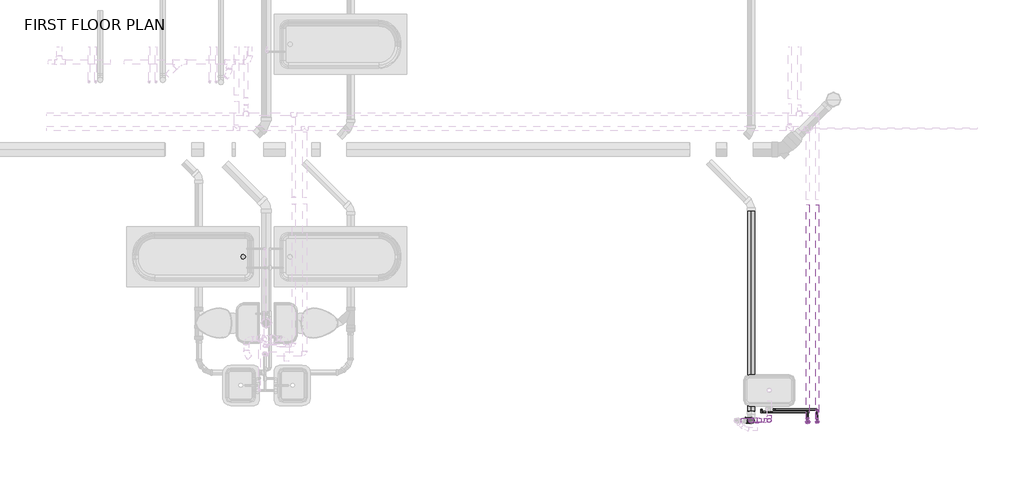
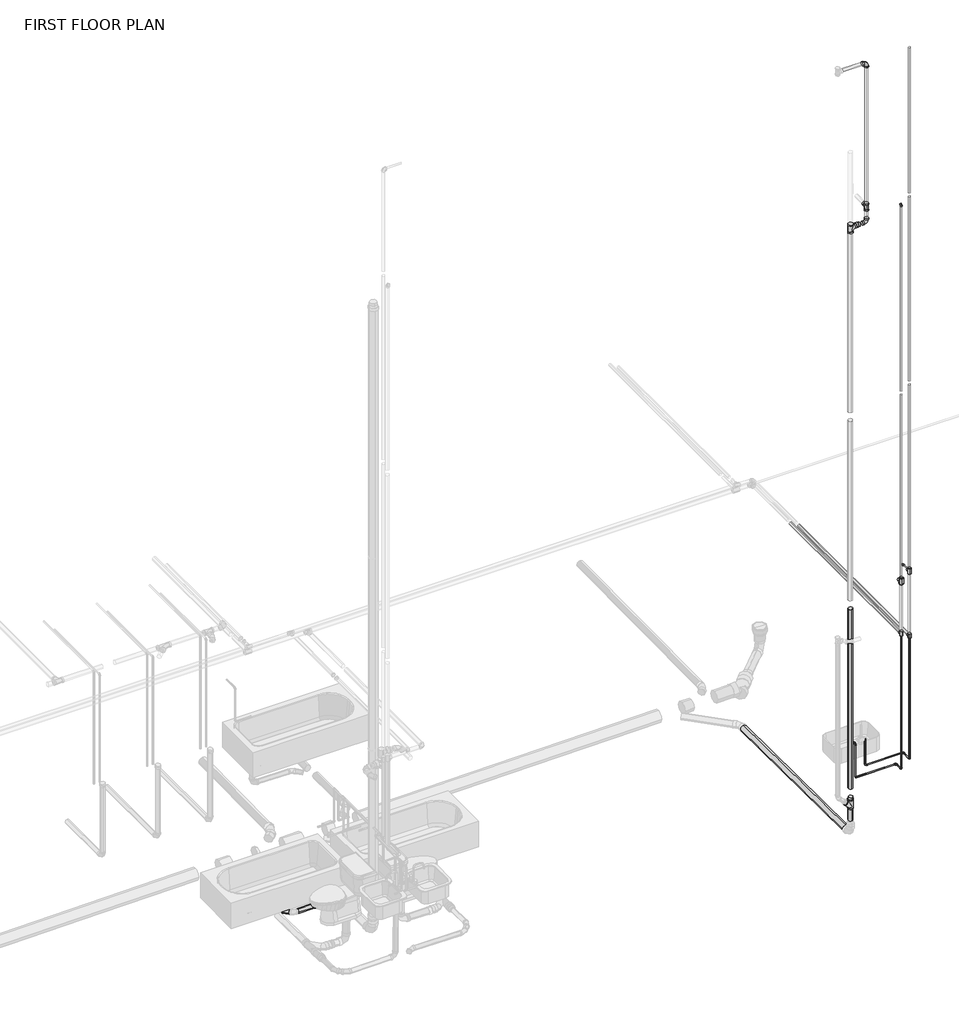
# One storey, part 23 of 29: 31 pipe segments, 29 pipe fittings.
"""IFC4 building model written with IfcOpenShell, lengths in millimetres."""

from ifc_helpers import new_model, si_unit, point, frame, frame_2d, origin, place, context, project, spatial, circle_curve, trimmed, segment, composite_curve, outline, extrude, transform, mapped, element, save
from components import bend_pvc_sch_40_dwv_standard_80f96eb1, bend_pvc_sch_40_dwv_standard_35af41d9, bend_pvc_sch_40_dwv_standard_e287c2f6, ges_wye_45_deg_threaded_mi_class_150_cast_iron_sanitary_c88a242e, pipe_elbow_copper_k_aad62f2d, pipe_elbow_copper_k_4cfe590c, pipe_tee_copper_k_36278b8a, pipe_tee_copper_k_7127fd44, pipe_tee_copper_k_60c871d1, pipe_transition_copper_k_5cd7eb3f, pipe_transition_copper_k_e8f139fb, pipe_transition_copper_k_0ad24bcb, pipe_transition_copper_k_8ba7ae3f, pipe_transition_copper_k_0f2e1631, pipe_transition_copper_k_f9440895, pipe_transition_copper_k_17d9deb3, pipe_transition_copper_k_4b29cc47, pipe_transition_copper_k_2a5e9307, reducer_pvc_sch_40_dwv_standard_b23fa098, tee_sanitary_pvc_sch_40_dwv_standard_63ee02c0, tee_sanitary_pvc_sch_40_dwv_standard_3578d342

model = new_model("IFC4")

# Units and contexts
model_context = context("Model", 3, world=origin())
ifc_project = project(units=[si_unit("LENGTHUNIT", "METRE", prefix="MILLI")], contexts=[model_context])

# Site, building, storey
site = spatial("IfcSite", under=ifc_project)
building = spatial("IfcBuilding", under=site)
storey = spatial("IfcBuildingStorey", under=building, Name="FIRST FLOOR PLAN", Elevation=0.0)

# Pipe fittings
placement = place(None, origin())
bend_pvc_sch_40_dwv_standard_shape = bend_pvc_sch_40_dwv_standard_80f96eb1(model_context)
element("IfcPipeFitting", 1, ObjectType="Bend - PVC - Sch 40 - DWV : Standard", at=placement, inside=storey, context=model_context, shape_type="MappedRepresentation", body=[
    mapped(bend_pvc_sch_40_dwv_standard_shape, transform((23291.1166496, 2089.7012881, 8872.178232), x_axis=(0.0, 0.0, -1.0), y_axis=(1.0, 0.0, 0.0), z_axis=(0.0, -1.0, 0.0))),
])
bend_pvc_sch_40_dwv_standard_2_shape = bend_pvc_sch_40_dwv_standard_35af41d9(model_context)
element("IfcPipeFitting", 2, ObjectType="Bend - PVC - Sch 40 - DWV : Standard", at=placement, inside=storey, context=model_context, shape_type="MappedRepresentation", body=[
    mapped(bend_pvc_sch_40_dwv_standard_2_shape, transform((23291.1209875, 2089.7012881, 11280.7857867), x_axis=(0.0, 0.0, 1.0), y_axis=(1.0, 0.0, 0.0), z_axis=(0.0, 1.0, 0.0))),
])
bend_pvc_sch_40_dwv_standard_3_shape = bend_pvc_sch_40_dwv_standard_e287c2f6(model_context)
element("IfcPipeFitting", 3, ObjectType="Bend - PVC - Sch 40 - DWV : Standard", at=placement, inside=storey, context=model_context, shape_type="MappedRepresentation", body=[
    mapped(bend_pvc_sch_40_dwv_standard_3_shape, transform((16645.9885087, 4158.2539362, -374.9831258), x_axis=(0.0, 0.0, -1.0), y_axis=(-1.0, 0.0, 0.0), z_axis=(0.0, 1.0, 0.0))),
])
ges_wye_45_deg_threaded_mi_class_150_cast_iron_sanitary_shape = ges_wye_45_deg_threaded_mi_class_150_cast_iron_sanitary_c88a242e(model_context)
element("IfcPipeFitting", 4, ObjectType="GES Wye 45 Deg - Threaded - MI - Class 150 : Cast Iron- Sanitary", at=placement, inside=storey, context=model_context, shape_type="MappedRepresentation", body=[
    mapped(ges_wye_45_deg_threaded_mi_class_150_cast_iron_sanitary_shape, transform((23061.4980301, 2089.9069038, 122.1428758), x_axis=(0.0, 0.0, 1.0), y_axis=(-0.9999896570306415, -0.004548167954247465, 0.0), z_axis=(0.004548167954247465, -0.9999896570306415, 0.0))),
])
pipe_elbow_copper_k_shape = pipe_elbow_copper_k_aad62f2d(model_context)
element("IfcPipeFitting", 5, ObjectType="Pipe Elbow : Copper- K", at=placement, inside=storey, context=model_context, shape_type="MappedRepresentation", body=[
    mapped(pipe_elbow_copper_k_shape, transform((23897.1913377, 2227.8137881, 3393.4757324), x_axis=(0.0, 1.0, 0.0), y_axis=(-0.9999999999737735, 0.0, 7.242448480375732e-06), z_axis=(7.242448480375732e-06, 0.0, 0.9999999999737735))),
])
element("IfcPipeFitting", 6, ObjectType="Pipe Elbow : Copper- K", at=placement, inside=storey, context=model_context, shape_type="MappedRepresentation", body=[
    mapped(pipe_elbow_copper_k_shape, transform((23193.8391516, 2195.725865, 436.8601562), x_axis=(-1.0, 0.0, 0.0), y_axis=(0.0, 0.0, 1.0), z_axis=(0.0, 1.0, 0.0))),
])
element("IfcPipeFitting", 7, ObjectType="Pipe Elbow : Copper- K", at=placement, inside=storey, context=model_context, shape_type="MappedRepresentation", body=[
    mapped(pipe_elbow_copper_k_shape, transform((23193.8391516, 2195.725865, 944.8601562), x_axis=(0.0, 0.0, 1.0), y_axis=(0.0, 1.0, 0.0), z_axis=(-1.0, 0.0, 0.0))),
])
element("IfcPipeFitting", 8, ObjectType="Pipe Elbow : Copper- K", at=placement, inside=storey, context=model_context, shape_type="MappedRepresentation", body=[
    mapped(pipe_elbow_copper_k_shape, transform((23778.0391516, 2071.7561808, 8971.2601562), x_axis=(0.0, 0.0, 1.0), y_axis=(0.0, 1.0, 0.0), z_axis=(-1.0, 0.0, 0.0))),
])
element("IfcPipeFitting", 9, ObjectType="Pipe Elbow : Copper- K", at=placement, inside=storey, context=model_context, shape_type="MappedRepresentation", body=[
    mapped(pipe_elbow_copper_k_shape, transform((23897.1913377, 2071.7561808, 548.6757324), x_axis=(0.0, 0.0, -1.0), y_axis=(0.0, 1.0, 0.0), z_axis=(1.0, 0.0, 0.0))),
])
element("IfcPipeFitting", 10, ObjectType="Pipe Elbow : Copper- K", at=placement, inside=storey, context=model_context, shape_type="MappedRepresentation", body=[
    mapped(pipe_elbow_copper_k_shape, transform((23897.1913377, 2227.8137881, 548.6757324), x_axis=(0.0, 1.0, 0.0), y_axis=(-0.9999999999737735, 0.0, 7.242448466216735e-06), z_axis=(7.242448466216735e-06, 0.0, 0.9999999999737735))),
])
element("IfcPipeFitting", 11, ObjectType="Pipe Elbow : Copper- K", at=placement, inside=storey, context=model_context, shape_type="MappedRepresentation", body=[
    mapped(pipe_elbow_copper_k_shape, transform((23778.0391516, 2195.725865, 436.8601562), x_axis=(0.0, 1.0, 0.0), y_axis=(-1.0, 0.0, 0.0), z_axis=(0.0, 0.0, 1.0))),
])
element("IfcPipeFitting", 12, ObjectType="Pipe Elbow : Copper- K", at=placement, inside=storey, context=model_context, shape_type="MappedRepresentation", body=[
    mapped(pipe_elbow_copper_k_shape, transform((23778.0391516, 2071.7561808, 436.8601562), x_axis=(0.0, -1.0, 0.0), y_axis=(0.0, 0.0, 1.0), z_axis=(-1.0, 0.0, 0.0))),
])
pipe_elbow_copper_k_2_shape = pipe_elbow_copper_k_4cfe590c(model_context)
element("IfcPipeFitting", 13, ObjectType="Pipe Elbow : Copper- K", at=placement, inside=storey, context=model_context, shape_type="MappedRepresentation", body=[
    mapped(pipe_elbow_copper_k_2_shape, transform((23351.0913377, 2227.8137881, 548.6796875), x_axis=(0.0, 0.0, -1.0), y_axis=(1.0, 0.0, 0.0), z_axis=(0.0, -1.0, 0.0))),
])
pipe_tee_copper_k_shape = pipe_tee_copper_k_36278b8a(model_context)
element("IfcPipeFitting", 14, ObjectType="Pipe Tee : Copper- K", at=placement, inside=storey, context=model_context, shape_type="MappedRepresentation", body=[
    mapped(pipe_tee_copper_k_shape, transform((23778.0391516, 2071.7561808, 3281.6214111), x_axis=(0.0, 0.0, 1.0), y_axis=(0.0, -1.0, 0.0), z_axis=(1.0, 0.0, 0.0))),
])
pipe_tee_copper_k_2_shape = pipe_tee_copper_k_7127fd44(model_context)
element("IfcPipeFitting", 15, ObjectType="Pipe Tee : Copper- K", at=placement, inside=storey, context=model_context, shape_type="MappedRepresentation", body=[
    mapped(pipe_tee_copper_k_2_shape, transform((23897.1913377, 2071.7561808, 3393.4757324), x_axis=(0.0, 0.0, 1.0), y_axis=(0.0, -1.0, 0.0), z_axis=(1.0, 0.0, 0.0))),
])
pipe_tee_copper_k_3_shape = pipe_tee_copper_k_60c871d1(model_context)
element("IfcPipeFitting", 16, ObjectType="Pipe Tee : Copper- K", at=placement, inside=storey, context=model_context, shape_type="MappedRepresentation", body=[
    mapped(pipe_tee_copper_k_3_shape, transform((23897.1913377, 2071.7561808, 2413.0), x_axis=(0.0, 0.0, -1.0), y_axis=(0.0, -1.0, 0.0), z_axis=(-1.0, 0.0, 0.0))),
])
element("IfcPipeFitting", 17, ObjectType="Pipe Tee : Copper- K", at=placement, inside=storey, context=model_context, shape_type="MappedRepresentation", body=[
    mapped(pipe_tee_copper_k_3_shape, transform((23778.0391516, 2071.7561808, 2490.6882812), x_axis=(0.0, 0.0, -1.0), y_axis=(0.0, -1.0, 0.0), z_axis=(-1.0, 0.0, 0.0))),
])
pipe_transition_copper_k_shape = pipe_transition_copper_k_5cd7eb3f(model_context)
element("IfcPipeFitting", 18, ObjectType="Pipe Transition : Copper- K", at=placement, inside=storey, context=model_context, shape_type="MappedRepresentation", body=[
    mapped(pipe_transition_copper_k_shape, transform((23778.0391516, 2071.7561808, 3324.4839111), x_axis=(0.0, 0.0, 1.0), y_axis=(-1.0, 0.0, 0.0), z_axis=(0.0, -1.0, 0.0))),
])
pipe_transition_copper_k_2_shape = pipe_transition_copper_k_e8f139fb(model_context)
element("IfcPipeFitting", 19, ObjectType="Pipe Transition : Copper- K", at=placement, inside=storey, context=model_context, shape_type="MappedRepresentation", body=[
    mapped(pipe_transition_copper_k_2_shape, transform((23778.0391516, 2114.6186808, 3281.6214111), x_axis=(0.0, 1.0, 0.0), y_axis=(-1.0, 0.0, 0.0), z_axis=(0.0, 0.0, 1.0))),
])
pipe_transition_copper_k_3_shape = pipe_transition_copper_k_0ad24bcb(model_context)
element("IfcPipeFitting", 20, ObjectType="Pipe Transition : Copper- K", at=placement, inside=storey, context=model_context, shape_type="MappedRepresentation", body=[
    mapped(pipe_transition_copper_k_3_shape, transform((23897.1913377, 2108.2686808, 3393.4757324), x_axis=(0.0, 1.0, 0.0), y_axis=(-1.0, 0.0, 0.0), z_axis=(0.0, 0.0, 1.0))),
])
pipe_transition_copper_k_4_shape = pipe_transition_copper_k_8ba7ae3f(model_context)
element("IfcPipeFitting", 21, ObjectType="Pipe Transition : Copper- K", at=placement, inside=storey, context=model_context, shape_type="MappedRepresentation", body=[
    mapped(pipe_transition_copper_k_4_shape, transform((23778.0391516, 2071.7561808, 8953.7976562), x_axis=(0.0, 0.0, -1.0), y_axis=(1.0, 0.0, 0.0), z_axis=(0.0, -1.0, 0.0))),
])
pipe_transition_copper_k_5_shape = pipe_transition_copper_k_0f2e1631(model_context)
element("IfcPipeFitting", 22, ObjectType="Pipe Transition : Copper- K", at=placement, inside=storey, context=model_context, shape_type="MappedRepresentation", body=[
    mapped(pipe_transition_copper_k_5_shape, transform((23897.1913377, 2071.7561808, 3429.9882324), x_axis=(0.0, 0.0, 1.0), y_axis=(-1.0, 0.0, 0.0), z_axis=(0.0, -1.0, 0.0))),
])
pipe_transition_copper_k_6_shape = pipe_transition_copper_k_f9440895(model_context)
element("IfcPipeFitting", 23, ObjectType="Pipe Transition : Copper- K", at=placement, inside=storey, context=model_context, shape_type="MappedRepresentation", body=[
    mapped(pipe_transition_copper_k_6_shape, transform((23897.1913377, 2071.7561808, 3356.9632324), x_axis=(0.0, 0.0, -1.0), y_axis=(-1.0, 0.0, 0.0), z_axis=(0.0, 1.0, 0.0))),
])
pipe_transition_copper_k_7_shape = pipe_transition_copper_k_17d9deb3(model_context)
element("IfcPipeFitting", 24, ObjectType="Pipe Transition : Copper- K", at=placement, inside=storey, context=model_context, shape_type="MappedRepresentation", body=[
    mapped(pipe_transition_copper_k_7_shape, transform((23778.0391516, 2071.7561808, 3238.7589111), x_axis=(0.0, 0.0, -1.0), y_axis=(-1.0, 0.0, 0.0), z_axis=(0.0, 1.0, 0.0))),
])
pipe_transition_copper_k_8_shape = pipe_transition_copper_k_4b29cc47(model_context)
element("IfcPipeFitting", 25, ObjectType="Pipe Transition : Copper- K", at=placement, inside=storey, context=model_context, shape_type="MappedRepresentation", body=[
    mapped(pipe_transition_copper_k_8_shape, transform((23897.1913377, 2071.7561808, 2379.6625), x_axis=(0.0, 0.0, -1.0), y_axis=(1.0, 0.0, 0.0), z_axis=(0.0, -1.0, 0.0))),
])
pipe_transition_copper_k_9_shape = pipe_transition_copper_k_2a5e9307(model_context)
element("IfcPipeFitting", 26, ObjectType="Pipe Transition : Copper- K", at=placement, inside=storey, context=model_context, shape_type="MappedRepresentation", body=[
    mapped(pipe_transition_copper_k_9_shape, transform((23778.0391516, 2071.7561808, 2452.9851562), x_axis=(0.0, 0.0, 1.0), y_axis=(-1.0, 0.0, 0.0), z_axis=(0.0, -1.0, 0.0))),
])
reducer_pvc_sch_40_dwv_standard_shape = reducer_pvc_sch_40_dwv_standard_b23fa098(model_context)
element("IfcPipeFitting", 27, ObjectType="Reducer - PVC - Sch 40 - DWV : Standard", at=placement, inside=storey, context=model_context, shape_type="MappedRepresentation", body=[
    mapped(reducer_pvc_sch_40_dwv_standard_shape, transform((23139.5142111, 2089.7012881, 8870.5990399), x_axis=(0.9999457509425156, 0.0, 0.010416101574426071), y_axis=(0.0, 1.0000000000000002, 0.0), z_axis=(-0.010416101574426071, 0.0, 0.9999457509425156))),
])
tee_sanitary_pvc_sch_40_dwv_standard_shape = tee_sanitary_pvc_sch_40_dwv_standard_63ee02c0(model_context)
element("IfcPipeFitting", 28, ObjectType="Tee Sanitary - PVC - Sch 40 - DWV : Standard", at=placement, inside=storey, context=model_context, shape_type="MappedRepresentation", body=[
    mapped(tee_sanitary_pvc_sch_40_dwv_standard_shape, transform((23061.4980301, 2089.9069038, 8869.5241105), x_axis=(0.0, 0.0, 1.0), y_axis=(1.0, 0.0, 0.0), z_axis=(0.0, 1.0, 0.0))),
])
tee_sanitary_pvc_sch_40_dwv_standard_2_shape = tee_sanitary_pvc_sch_40_dwv_standard_3578d342(model_context)
element("IfcPipeFitting", 29, ObjectType="Tee Sanitary - PVC - Sch 40 - DWV : Standard", at=placement, inside=storey, context=model_context, shape_type="MappedRepresentation", body=[
    mapped(tee_sanitary_pvc_sch_40_dwv_standard_2_shape, transform((23291.1209875, 2089.7012881, 9112.4170389), x_axis=(0.0, 0.0, 1.0), y_axis=(0.0, 1.0, 0.0), z_axis=(-1.0, 0.0, 0.0))),
])

# Pipe segments
element("IfcPipeSegment", 30, ObjectType="Copper", at=placement, inside=storey, context=model_context, shape_type="SweptSolid", body=[
    extrude(outline(composite_curve([segment(trimmed(circle_curve(frame_2d((2413.0, 23897.1913377)), 17.4625), [point((2413.0, 23879.7288377))], [point((2395.5375, 23897.1913377))], False, "CARTESIAN"), True, "CONTINUOUS"), segment(trimmed(circle_curve(frame_2d((2413.0, 23897.1913377)), 17.4625), [point((2395.5375, 23897.1913377))], [point((2413.0, 23914.6538377))], False, "CARTESIAN"), True, "CONTINUOUS"), segment(trimmed(circle_curve(frame_2d((2413.0, 23897.1913377)), 17.4625), [point((2413.0, 23914.6538377))], [point((2430.4625, 23897.1913377))], False, "CARTESIAN"), True, "CONTINUOUS"), segment(trimmed(circle_curve(frame_2d((2413.0, 23897.1913377)), 17.4625), [point((2430.4625, 23897.1913377))], [point((2413.0, 23879.7288377))], False, "CARTESIAN"), True, "CONTINUOUS")], self_intersect=False)), frame((0.0, 2105.0936808, 0.0), z_axis=(0.0, 1.0, 0.0), x_axis=(0.0, 0.0, 1.0)), (0.0, 0.0, 1.0), 2707.2691072),
])
element("IfcPipeSegment", 31, ObjectType="Copper", at=placement, inside=storey, context=model_context, shape_type="SweptSolid", body=[
    extrude(outline(composite_curve([segment(trimmed(circle_curve(frame_2d((2490.6882812, 23778.0391516)), 17.4625), [point((2490.6882812, 23760.5766516))], [point((2473.2257812, 23778.0391516))], False, "CARTESIAN"), True, "CONTINUOUS"), segment(trimmed(circle_curve(frame_2d((2490.6882812, 23778.0391516)), 17.4625), [point((2473.2257812, 23778.0391516))], [point((2490.6882812, 23795.5016516))], False, "CARTESIAN"), True, "CONTINUOUS"), segment(trimmed(circle_curve(frame_2d((2490.6882812, 23778.0391516)), 17.4625), [point((2490.6882812, 23795.5016516))], [point((2508.1507812, 23778.0391516))], False, "CARTESIAN"), True, "CONTINUOUS"), segment(trimmed(circle_curve(frame_2d((2490.6882812, 23778.0391516)), 17.4625), [point((2508.1507812, 23778.0391516))], [point((2490.6882812, 23760.5766516))], False, "CARTESIAN"), True, "CONTINUOUS")], self_intersect=False)), frame((0.0, 2105.0936808, 0.0), z_axis=(0.0, 1.0, 0.0), x_axis=(0.0, 0.0, 1.0)), (0.0, 0.0, 1.0), 2707.2691072),
])
element("IfcPipeSegment", 32, ObjectType="Copper", at=placement, inside=storey, context=model_context, shape_type="SweptSolid", body=[
    extrude(outline(composite_curve([segment(trimmed(circle_curve(frame_2d((23778.0391516, 2071.7561808)), 14.2875), [point((23763.7516516, 2071.7561808))], [point((23778.0391516, 2086.0436808))], False, "CARTESIAN"), True, "CONTINUOUS"), segment(trimmed(circle_curve(frame_2d((23778.0391516, 2071.7561808)), 14.2875), [point((23778.0391516, 2086.0436808))], [point((23792.3266516, 2071.7561808))], False, "CARTESIAN"), True, "CONTINUOUS"), segment(trimmed(circle_curve(frame_2d((23778.0391516, 2071.7561808)), 14.2875), [point((23792.3266516, 2071.7561808))], [point((23778.0391516, 2057.4686808))], False, "CARTESIAN"), True, "CONTINUOUS"), segment(trimmed(circle_curve(frame_2d((23778.0391516, 2071.7561808)), 14.2875), [point((23778.0391516, 2057.4686808))], [point((23763.7516516, 2071.7561808))], False, "CARTESIAN"), True, "CONTINUOUS")], self_intersect=False)), frame((0.0, 0.0, 6156.6226562), z_axis=(0.0, 0.0, 1.0), x_axis=(1.0, 0.0, 0.0)), (0.0, 0.0, 1.0), 2793.603125),
])
element("IfcPipeSegment", 33, ObjectType="Copper", at=placement, inside=storey, context=model_context, shape_type="SweptSolid", body=[
    extrude(outline(composite_curve([segment(trimmed(circle_curve(frame_2d((3393.4757324, 23897.1913377)), 7.9375), [point((3393.4757324, 23905.1288377))], [point((3401.4132324, 23897.1913377))], False, "CARTESIAN"), True, "CONTINUOUS"), segment(trimmed(circle_curve(frame_2d((3393.4757324, 23897.1913377)), 7.9375), [point((3401.4132324, 23897.1913377))], [point((3393.4757324, 23889.2538377))], False, "CARTESIAN"), True, "CONTINUOUS"), segment(trimmed(circle_curve(frame_2d((3393.4757324, 23897.1913377)), 7.9375), [point((3393.4757324, 23889.2538377))], [point((3385.5382324, 23897.1913377))], False, "CARTESIAN"), True, "CONTINUOUS"), segment(trimmed(circle_curve(frame_2d((3393.4757324, 23897.1913377)), 7.9375), [point((3385.5382324, 23897.1913377))], [point((3393.4757324, 23905.1288377))], False, "CARTESIAN"), True, "CONTINUOUS")], self_intersect=False)), frame((0.0, 2118.5874308, 0.0), z_axis=(0.0, 1.0, 0.0), x_axis=(0.0, 0.0, 1.0)), (0.0, 0.0, 1.0), 91.7638572),
])
element("IfcPipeSegment", 34, ObjectType="Copper", at=placement, inside=storey, context=model_context, shape_type="SweptSolid", body=[
    extrude(outline(composite_curve([segment(trimmed(circle_curve(frame_2d((23897.1913377, 2071.7561808)), 17.4625), [point((23879.7288377, 2071.7561808))], [point((23897.1913377, 2089.2186808))], False, "CARTESIAN"), True, "CONTINUOUS"), segment(trimmed(circle_curve(frame_2d((23897.1913377, 2071.7561808)), 17.4625), [point((23897.1913377, 2089.2186808))], [point((23914.6538377, 2071.7561808))], False, "CARTESIAN"), True, "CONTINUOUS"), segment(trimmed(circle_curve(frame_2d((23897.1913377, 2071.7561808)), 17.4625), [point((23914.6538377, 2071.7561808))], [point((23897.1913377, 2054.2936808))], False, "CARTESIAN"), True, "CONTINUOUS"), segment(trimmed(circle_curve(frame_2d((23897.1913377, 2071.7561808)), 17.4625), [point((23897.1913377, 2054.2936808))], [point((23879.7288377, 2071.7561808))], False, "CARTESIAN"), True, "CONTINUOUS")], self_intersect=False)), frame((0.0, 0.0, 2446.3375), z_axis=(0.0, 0.0, 1.0), x_axis=(1.0, 0.0, 0.0)), (0.0, 0.0, 1.0), 900.3069824),
])
element("IfcPipeSegment", 35, ObjectType="Copper", at=placement, inside=storey, context=model_context, shape_type="SweptSolid", body=[
    extrude(outline(composite_curve([segment(trimmed(circle_curve(frame_2d((23778.0391516, 2071.7561808)), 17.4625), [point((23760.5766516, 2071.7561808))], [point((23778.0391516, 2089.2186808))], False, "CARTESIAN"), True, "CONTINUOUS"), segment(trimmed(circle_curve(frame_2d((23778.0391516, 2071.7561808)), 17.4625), [point((23778.0391516, 2089.2186808))], [point((23795.5016516, 2071.7561808))], False, "CARTESIAN"), True, "CONTINUOUS"), segment(trimmed(circle_curve(frame_2d((23778.0391516, 2071.7561808)), 17.4625), [point((23795.5016516, 2071.7561808))], [point((23778.0391516, 2054.2936808))], False, "CARTESIAN"), True, "CONTINUOUS"), segment(trimmed(circle_curve(frame_2d((23778.0391516, 2071.7561808)), 17.4625), [point((23778.0391516, 2054.2936808))], [point((23760.5766516, 2071.7561808))], False, "CARTESIAN"), True, "CONTINUOUS")], self_intersect=False)), frame((0.0, 0.0, 2524.0257812), z_axis=(0.0, 0.0, 1.0), x_axis=(1.0, 0.0, 0.0)), (0.0, 0.0, 1.0), 701.2393798),
])
element("IfcPipeSegment", 36, ObjectType="Copper", at=placement, inside=storey, context=model_context, shape_type="SweptSolid", body=[
    extrude(outline(composite_curve([segment(trimmed(circle_curve(frame_2d((944.8601562, 23193.8391516)), 7.9375), [point((944.8601562, 23201.7766516))], [point((952.7976562, 23193.8391516))], False, "CARTESIAN"), True, "CONTINUOUS"), segment(trimmed(circle_curve(frame_2d((944.8601562, 23193.8391516)), 7.9375), [point((952.7976562, 23193.8391516))], [point((944.8601562, 23185.9016516))], False, "CARTESIAN"), True, "CONTINUOUS"), segment(trimmed(circle_curve(frame_2d((944.8601562, 23193.8391516)), 7.9375), [point((944.8601562, 23185.9016516))], [point((936.9226562, 23193.8391516))], False, "CARTESIAN"), True, "CONTINUOUS"), segment(trimmed(circle_curve(frame_2d((944.8601562, 23193.8391516)), 7.9375), [point((936.9226562, 23193.8391516))], [point((944.8601562, 23201.7766516))], False, "CARTESIAN"), True, "CONTINUOUS")], self_intersect=False)), frame((0.0, 2213.188365, 0.0), z_axis=(0.0, 1.0, 0.0), x_axis=(0.0, 0.0, 1.0)), (0.0, 0.0, 1.0), 17.3178158),
])
element("IfcPipeSegment", 37, ObjectType="Copper", at=placement, inside=storey, context=model_context, shape_type="SweptSolid", body=[
    extrude(outline(composite_curve([segment(trimmed(circle_curve(frame_2d((0.0, 7.9375)), 7.9375), [point((-7.9375, 7.9375))], [point((0.0, 15.875))], False, "CARTESIAN"), True, "CONTINUOUS"), segment(trimmed(circle_curve(frame_2d((0.0, 7.9375)), 7.9375), [point((0.0, 15.875))], [point((7.9375, 7.9375))], False, "CARTESIAN"), True, "CONTINUOUS"), segment(trimmed(circle_curve(frame_2d((0.0, 7.9375)), 7.9375), [point((7.9375, 7.9375))], [point((0.0, 0.0))], False, "CARTESIAN"), True, "CONTINUOUS"), segment(trimmed(circle_curve(frame_2d((0.0, 7.9375)), 7.9375), [point((0.0, 0.0))], [point((-7.9375, 7.9375))], False, "CARTESIAN"), True, "CONTINUOUS")], self_intersect=False)), frame((23879.7287803, 2227.8137881, 540.7383589), z_axis=(-0.9999999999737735, 0.0, 7.24244837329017e-06), x_axis=(0.0, -1.0, 0.0)), (0.0, 0.0, 1.0), 511.1751265),
])
element("IfcPipeSegment", 38, ObjectType="Copper", at=placement, inside=storey, context=model_context, shape_type="SweptSolid", body=[
    extrude(outline(composite_curve([segment(trimmed(circle_curve(frame_2d((23351.0913377, 2227.8137881)), 7.9375), [point((23343.1538377, 2227.8137881))], [point((23351.0913377, 2235.7512881))], False, "CARTESIAN"), True, "CONTINUOUS"), segment(trimmed(circle_curve(frame_2d((23351.0913377, 2227.8137881)), 7.9375), [point((23351.0913377, 2235.7512881))], [point((23359.0288377, 2227.8137881))], False, "CARTESIAN"), True, "CONTINUOUS"), segment(trimmed(circle_curve(frame_2d((23351.0913377, 2227.8137881)), 7.9375), [point((23359.0288377, 2227.8137881))], [point((23351.0913377, 2219.8762881))], False, "CARTESIAN"), True, "CONTINUOUS"), segment(trimmed(circle_curve(frame_2d((23351.0913377, 2227.8137881)), 7.9375), [point((23351.0913377, 2219.8762881))], [point((23343.1538377, 2227.8137881))], False, "CARTESIAN"), True, "CONTINUOUS")], self_intersect=False)), frame((0.0, 0.0, 566.142061), z_axis=(0.0, 0.0, 1.0), x_axis=(1.0, 0.0, 0.0)), (0.0, 0.0, 1.0), 378.7180952),
])
element("IfcPipeSegment", 39, ObjectType="Copper", at=placement, inside=storey, context=model_context, shape_type="SweptSolid", body=[
    extrude(outline(composite_curve([segment(trimmed(circle_curve(frame_2d((2195.725865, 436.8601562)), 7.9375), [point((2203.663365, 436.8601562))], [point((2195.725865, 428.9226562))], False, "CARTESIAN"), True, "CONTINUOUS"), segment(trimmed(circle_curve(frame_2d((2195.725865, 436.8601562)), 7.9375), [point((2195.725865, 428.9226562))], [point((2187.788365, 436.8601562))], False, "CARTESIAN"), True, "CONTINUOUS"), segment(trimmed(circle_curve(frame_2d((2195.725865, 436.8601562)), 7.9375), [point((2187.788365, 436.8601562))], [point((2195.725865, 444.7976562))], False, "CARTESIAN"), True, "CONTINUOUS"), segment(trimmed(circle_curve(frame_2d((2195.725865, 436.8601562)), 7.9375), [point((2195.725865, 444.7976562))], [point((2203.663365, 436.8601562))], False, "CARTESIAN"), True, "CONTINUOUS")], self_intersect=False)), frame((23211.3016516, 0.0, 0.0), z_axis=(1.0, 0.0, 0.0), x_axis=(0.0, 1.0, 0.0)), (0.0, 0.0, 1.0), 549.275),
])
element("IfcPipeSegment", 40, ObjectType="Copper", at=placement, inside=storey, context=model_context, shape_type="SweptSolid", body=[
    extrude(outline(composite_curve([segment(trimmed(circle_curve(frame_2d((23193.8391516, 2195.725865)), 7.9375), [point((23185.9016516, 2195.725865))], [point((23193.8391516, 2203.663365))], False, "CARTESIAN"), True, "CONTINUOUS"), segment(trimmed(circle_curve(frame_2d((23193.8391516, 2195.725865)), 7.9375), [point((23193.8391516, 2203.663365))], [point((23201.7766516, 2195.725865))], False, "CARTESIAN"), True, "CONTINUOUS"), segment(trimmed(circle_curve(frame_2d((23193.8391516, 2195.725865)), 7.9375), [point((23201.7766516, 2195.725865))], [point((23193.8391516, 2187.788365))], False, "CARTESIAN"), True, "CONTINUOUS"), segment(trimmed(circle_curve(frame_2d((23193.8391516, 2195.725865)), 7.9375), [point((23193.8391516, 2187.788365))], [point((23185.9016516, 2195.725865))], False, "CARTESIAN"), True, "CONTINUOUS")], self_intersect=False)), frame((0.0, 0.0, 454.3226562), z_axis=(0.0, 0.0, 1.0), x_axis=(1.0, 0.0, 0.0)), (0.0, 0.0, 1.0), 473.075),
])
element("IfcPipeSegment", 41, ObjectType="Copper", at=placement, inside=storey, context=model_context, shape_type="SweptSolid", body=[
    extrude(outline(composite_curve([segment(trimmed(circle_curve(frame_2d((23897.1913377, 2071.7561808)), 14.2875), [point((23882.9038377, 2071.7561808))], [point((23897.1913377, 2086.0436808))], False, "CARTESIAN"), True, "CONTINUOUS"), segment(trimmed(circle_curve(frame_2d((23897.1913377, 2071.7561808)), 14.2875), [point((23897.1913377, 2086.0436808))], [point((23911.4788377, 2071.7561808))], False, "CARTESIAN"), True, "CONTINUOUS"), segment(trimmed(circle_curve(frame_2d((23897.1913377, 2071.7561808)), 14.2875), [point((23911.4788377, 2071.7561808))], [point((23897.1913377, 2057.4686808))], False, "CARTESIAN"), True, "CONTINUOUS"), segment(trimmed(circle_curve(frame_2d((23897.1913377, 2071.7561808)), 14.2875), [point((23897.1913377, 2057.4686808))], [point((23882.9038377, 2071.7561808))], False, "CARTESIAN"), True, "CONTINUOUS")], self_intersect=False)), frame((0.0, 0.0, 9113.2421875), z_axis=(0.0, 0.0, 1.0), x_axis=(1.0, 0.0, 0.0)), (0.0, 0.0, 1.0), 2194.1234375),
])
element("IfcPipeSegment", 42, ObjectType="Copper", at=placement, inside=storey, context=model_context, shape_type="SweptSolid", body=[
    extrude(outline(composite_curve([segment(trimmed(circle_curve(frame_2d((23778.0391516, 2071.7561808)), 14.2875), [point((23763.7516516, 2071.7561808))], [point((23778.0391516, 2086.0436808))], False, "CARTESIAN"), True, "CONTINUOUS"), segment(trimmed(circle_curve(frame_2d((23778.0391516, 2071.7561808)), 14.2875), [point((23778.0391516, 2086.0436808))], [point((23792.3266516, 2071.7561808))], False, "CARTESIAN"), True, "CONTINUOUS"), segment(trimmed(circle_curve(frame_2d((23778.0391516, 2071.7561808)), 14.2875), [point((23792.3266516, 2071.7561808))], [point((23778.0391516, 2057.4686808))], False, "CARTESIAN"), True, "CONTINUOUS"), segment(trimmed(circle_curve(frame_2d((23778.0391516, 2071.7561808)), 14.2875), [point((23778.0391516, 2057.4686808))], [point((23763.7516516, 2071.7561808))], False, "CARTESIAN"), True, "CONTINUOUS")], self_intersect=False)), frame((0.0, 0.0, 3337.9776611), z_axis=(0.0, 0.0, 1.0), x_axis=(1.0, 0.0, 0.0)), (0.0, 0.0, 1.0), 2758.3199952),
])
element("IfcPipeSegment", 43, ObjectType="Copper", at=placement, inside=storey, context=model_context, shape_type="SweptSolid", body=[
    extrude(outline(composite_curve([segment(trimmed(circle_curve(frame_2d((23897.1913377, 2071.7561808)), 14.2875), [point((23882.9038377, 2071.7561808))], [point((23897.1913377, 2086.0436808))], False, "CARTESIAN"), True, "CONTINUOUS"), segment(trimmed(circle_curve(frame_2d((23897.1913377, 2071.7561808)), 14.2875), [point((23897.1913377, 2086.0436808))], [point((23911.4788377, 2071.7561808))], False, "CARTESIAN"), True, "CONTINUOUS"), segment(trimmed(circle_curve(frame_2d((23897.1913377, 2071.7561808)), 14.2875), [point((23911.4788377, 2071.7561808))], [point((23897.1913377, 2057.4686808))], False, "CARTESIAN"), True, "CONTINUOUS"), segment(trimmed(circle_curve(frame_2d((23897.1913377, 2071.7561808)), 14.2875), [point((23897.1913377, 2057.4686808))], [point((23882.9038377, 2071.7561808))], False, "CARTESIAN"), True, "CONTINUOUS")], self_intersect=False)), frame((0.0, 0.0, 3440.3069824), z_axis=(0.0, 0.0, 1.0), x_axis=(1.0, 0.0, 0.0)), (0.0, 0.0, 1.0), 2767.80625),
])
element("IfcPipeSegment", 44, ObjectType="Copper", at=placement, inside=storey, context=model_context, shape_type="SweptSolid", body=[
    extrude(outline(composite_curve([segment(trimmed(circle_curve(frame_2d((23897.1913377, 2071.7561808)), 7.9375), [point((23905.1288377, 2071.7561808))], [point((23897.1913377, 2063.8186808))], False, "CARTESIAN"), True, "CONTINUOUS"), segment(trimmed(circle_curve(frame_2d((23897.1913377, 2071.7561808)), 7.9375), [point((23897.1913377, 2063.8186808))], [point((23889.2538377, 2071.7561808))], False, "CARTESIAN"), True, "CONTINUOUS"), segment(trimmed(circle_curve(frame_2d((23897.1913377, 2071.7561808)), 7.9375), [point((23889.2538377, 2071.7561808))], [point((23897.1913377, 2079.6936808))], False, "CARTESIAN"), True, "CONTINUOUS"), segment(trimmed(circle_curve(frame_2d((23897.1913377, 2071.7561808)), 7.9375), [point((23897.1913377, 2079.6936808))], [point((23905.1288377, 2071.7561808))], False, "CARTESIAN"), True, "CONTINUOUS")], self_intersect=False)), frame((0.0, 0.0, 566.1382324), z_axis=(0.0, 0.0, 1.0), x_axis=(1.0, 0.0, 0.0)), (0.0, 0.0, 1.0), 1804.7930176),
])
element("IfcPipeSegment", 45, ObjectType="Copper", at=placement, inside=storey, context=model_context, shape_type="SweptSolid", body=[
    extrude(outline(composite_curve([segment(trimmed(circle_curve(frame_2d((23778.0391516, 2071.7561808)), 7.9375), [point((23770.1016516, 2071.7561808))], [point((23778.0391516, 2079.6936808))], False, "CARTESIAN"), True, "CONTINUOUS"), segment(trimmed(circle_curve(frame_2d((23778.0391516, 2071.7561808)), 7.9375), [point((23778.0391516, 2079.6936808))], [point((23785.9766516, 2071.7561808))], False, "CARTESIAN"), True, "CONTINUOUS"), segment(trimmed(circle_curve(frame_2d((23778.0391516, 2071.7561808)), 7.9375), [point((23785.9766516, 2071.7561808))], [point((23778.0391516, 2063.8186808))], False, "CARTESIAN"), True, "CONTINUOUS"), segment(trimmed(circle_curve(frame_2d((23778.0391516, 2071.7561808)), 7.9375), [point((23778.0391516, 2063.8186808))], [point((23770.1016516, 2071.7561808))], False, "CARTESIAN"), True, "CONTINUOUS")], self_intersect=False)), frame((0.0, 0.0, 454.3226562), z_axis=(0.0, 0.0, 1.0), x_axis=(1.0, 0.0, 0.0)), (0.0, 0.0, 1.0), 1998.6625),
])
element("IfcPipeSegment", 46, ObjectType="Copper", at=placement, inside=storey, context=model_context, shape_type="SweptSolid", body=[
    extrude(outline(composite_curve([segment(trimmed(circle_curve(frame_2d((548.6757324, 23897.1913377)), 7.9375), [point((548.6757324, 23905.1288377))], [point((556.6132324, 23897.1913377))], False, "CARTESIAN"), True, "CONTINUOUS"), segment(trimmed(circle_curve(frame_2d((548.6757324, 23897.1913377)), 7.9375), [point((556.6132324, 23897.1913377))], [point((548.6757324, 23889.2538377))], False, "CARTESIAN"), True, "CONTINUOUS"), segment(trimmed(circle_curve(frame_2d((548.6757324, 23897.1913377)), 7.9375), [point((548.6757324, 23889.2538377))], [point((540.7382324, 23897.1913377))], False, "CARTESIAN"), True, "CONTINUOUS"), segment(trimmed(circle_curve(frame_2d((548.6757324, 23897.1913377)), 7.9375), [point((540.7382324, 23897.1913377))], [point((548.6757324, 23905.1288377))], False, "CARTESIAN"), True, "CONTINUOUS")], self_intersect=False)), frame((0.0, 2089.2186808, 0.0), z_axis=(0.0, 1.0, 0.0), x_axis=(0.0, 0.0, 1.0)), (0.0, 0.0, 1.0), 121.1326072),
])
element("IfcPipeSegment", 47, ObjectType="Copper", at=placement, inside=storey, context=model_context, shape_type="SweptSolid", body=[
    extrude(outline(composite_curve([segment(trimmed(circle_curve(frame_2d((436.8601562, 23778.0391516)), 7.9375), [point((436.8601562, 23770.1016516))], [point((428.9226562, 23778.0391516))], False, "CARTESIAN"), True, "CONTINUOUS"), segment(trimmed(circle_curve(frame_2d((436.8601562, 23778.0391516)), 7.9375), [point((428.9226562, 23778.0391516))], [point((436.8601562, 23785.9766516))], False, "CARTESIAN"), True, "CONTINUOUS"), segment(trimmed(circle_curve(frame_2d((436.8601562, 23778.0391516)), 7.9375), [point((436.8601562, 23785.9766516))], [point((444.7976562, 23778.0391516))], False, "CARTESIAN"), True, "CONTINUOUS"), segment(trimmed(circle_curve(frame_2d((436.8601562, 23778.0391516)), 7.9375), [point((444.7976562, 23778.0391516))], [point((436.8601562, 23770.1016516))], False, "CARTESIAN"), True, "CONTINUOUS")], self_intersect=False)), frame((0.0, 2089.2186808, 0.0), z_axis=(0.0, 1.0, 0.0), x_axis=(0.0, 0.0, 1.0)), (0.0, 0.0, 1.0), 89.0446842),
])
element("IfcPipeSegment", 48, ObjectType="Copper", at=placement, inside=storey, context=model_context, shape_type="SweptSolid", body=[
    extrude(outline(composite_curve([segment(trimmed(circle_curve(frame_2d((23897.1913377, 2071.7561808)), 14.2875), [point((23882.9038377, 2071.7561808))], [point((23897.1913377, 2086.0436808))], False, "CARTESIAN"), True, "CONTINUOUS"), segment(trimmed(circle_curve(frame_2d((23897.1913377, 2071.7561808)), 14.2875), [point((23897.1913377, 2086.0436808))], [point((23911.4788377, 2071.7561808))], False, "CARTESIAN"), True, "CONTINUOUS"), segment(trimmed(circle_curve(frame_2d((23897.1913377, 2071.7561808)), 14.2875), [point((23911.4788377, 2071.7561808))], [point((23897.1913377, 2057.4686808))], False, "CARTESIAN"), True, "CONTINUOUS"), segment(trimmed(circle_curve(frame_2d((23897.1913377, 2071.7561808)), 14.2875), [point((23897.1913377, 2057.4686808))], [point((23882.9038377, 2071.7561808))], False, "CARTESIAN"), True, "CONTINUOUS")], self_intersect=False)), frame((0.0, 0.0, 6268.4382324), z_axis=(0.0, 0.0, 1.0), x_axis=(1.0, 0.0, 0.0)), (0.0, 0.0, 1.0), 2784.4789551),
])
element("IfcPipeSegment", 49, ObjectType="PVC - SAN/STORM", at=placement, inside=storey, context=model_context, shape_type="SweptSolid", body=[
    extrude(outline(composite_curve([segment(trimmed(circle_curve(frame_2d((0.0, -44.45)), 44.45), [point((44.45, -44.45))], [point((0.0, -88.9))], False, "CARTESIAN"), True, "CONTINUOUS"), segment(trimmed(circle_curve(frame_2d((0.0, -44.45)), 44.45), [point((0.0, -88.9))], [point((-44.45, -44.45))], False, "CARTESIAN"), True, "CONTINUOUS"), segment(trimmed(circle_curve(frame_2d((0.0, -44.45)), 44.45), [point((-44.45, -44.45))], [point((0.0, 0.0))], False, "CARTESIAN"), True, "CONTINUOUS"), segment(trimmed(circle_curve(frame_2d((0.0, -44.45)), 44.45), [point((0.0, 0.0))], [point((44.45, -44.45))], False, "CARTESIAN"), True, "CONTINUOUS")], self_intersect=False)), frame((23061.4905896, 4740.4020512, -271.8947636), z_axis=(0.0, -0.9999579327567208, 0.00917238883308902), x_axis=(1.0, 0.0, 0.0)), (0.0, 0.0, 1.0), 2534.2706853),
])
element("IfcPipeSegment", 50, ObjectType="PVC - SAN/STORM", at=placement, inside=storey, context=model_context, shape_type="SweptSolid", body=[
    extrude(outline(composite_curve([segment(trimmed(circle_curve(frame_2d((0.0, -24.13)), 24.13), [point((-24.1299999, -24.13))], [point((0.0, 0.0))], False, "CARTESIAN"), True, "CONTINUOUS"), segment(trimmed(circle_curve(frame_2d((0.0, -24.13)), 24.13), [point((0.0, 0.0))], [point((24.13, -24.13))], False, "CARTESIAN"), True, "CONTINUOUS"), segment(trimmed(circle_curve(frame_2d((0.0, -24.13)), 24.13), [point((24.13, -24.13))], [point((0.0, -48.26))], False, "CARTESIAN"), True, "CONTINUOUS"), segment(trimmed(circle_curve(frame_2d((0.0, -24.13)), 24.13), [point((0.0, -48.26))], [point((-24.1299999, -24.13))], False, "CARTESIAN"), True, "CONTINUOUS")], self_intersect=False)), frame((23291.1166496, 2065.5712881, 8934.078032), z_axis=(3.725464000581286e-05, 0.0, 0.9999999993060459), x_axis=(-0.9999999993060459, 0.0, 3.725464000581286e-05)), (0.0, 0.0, 1.0), 116.439207),
])
element("IfcPipeSegment", 51, ObjectType="PVC - SAN/STORM", at=placement, inside=storey, context=model_context, shape_type="SweptSolid", body=[
    extrude(outline(composite_curve([segment(trimmed(circle_curve(frame_2d((23061.4980301, 2089.9069038)), 30.1625), [point((23031.3355301, 2089.9069038))], [point((23061.4980301, 2120.0694038))], False, "CARTESIAN"), True, "CONTINUOUS"), segment(trimmed(circle_curve(frame_2d((23061.4980301, 2089.9069038)), 30.1625), [point((23061.4980301, 2120.0694038))], [point((23091.6605301, 2089.9069038))], False, "CARTESIAN"), True, "CONTINUOUS"), segment(trimmed(circle_curve(frame_2d((23061.4980301, 2089.9069038)), 30.1625), [point((23091.6605301, 2089.9069038))], [point((23061.4980301, 2059.7444038))], False, "CARTESIAN"), True, "CONTINUOUS"), segment(trimmed(circle_curve(frame_2d((23061.4980301, 2089.9069038)), 30.1625), [point((23061.4980301, 2059.7444038))], [point((23031.3355301, 2089.9069038))], False, "CARTESIAN"), True, "CONTINUOUS")], self_intersect=False)), frame((0.0, 0.0, 6080.9367935), z_axis=(0.0, 0.0, 1.0), x_axis=(1.0, 0.0, 0.0)), (0.0, 0.0, 1.0), 2710.787117),
])
element("IfcPipeSegment", 52, ObjectType="PVC - SAN/STORM", at=placement, inside=storey, context=model_context, shape_type="SweptSolid", body=[
    extrude(outline(composite_curve([segment(trimmed(circle_curve(frame_2d((23291.1209875, 2089.7012881)), 24.13), [point((23266.9909875, 2089.7012881))], [point((23291.1209875, 2113.8312881))], False, "CARTESIAN"), True, "CONTINUOUS"), segment(trimmed(circle_curve(frame_2d((23291.1209875, 2089.7012881)), 24.13), [point((23291.1209875, 2113.8312881))], [point((23315.2509875, 2089.7012881))], False, "CARTESIAN"), True, "CONTINUOUS"), segment(trimmed(circle_curve(frame_2d((23291.1209875, 2089.7012881)), 24.13), [point((23315.2509875, 2089.7012881))], [point((23291.1209875, 2065.5712881))], False, "CARTESIAN"), True, "CONTINUOUS"), segment(trimmed(circle_curve(frame_2d((23291.1209875, 2089.7012881)), 24.13), [point((23291.1209875, 2065.5712881))], [point((23266.9909875, 2089.7012881))], False, "CARTESIAN"), True, "CONTINUOUS")], self_intersect=False)), frame((0.0, 0.0, 9158.6112003), z_axis=(0.0, 0.0, 1.0), x_axis=(1.0, 0.0, 0.0)), (0.0, 0.0, 1.0), 2060.2747864),
])
element("IfcPipeSegment", 53, ObjectType="PVC - SAN/STORM", at=placement, inside=storey, context=model_context, shape_type="SweptSolid", body=[
    extrude(outline(composite_curve([segment(trimmed(circle_curve(frame_2d((23061.4980301, 2089.9069038)), 30.1625), [point((23031.3355301, 2089.9069038))], [point((23061.4980301, 2120.0694038))], False, "CARTESIAN"), True, "CONTINUOUS"), segment(trimmed(circle_curve(frame_2d((23061.4980301, 2089.9069038)), 30.1625), [point((23061.4980301, 2120.0694038))], [point((23091.6605301, 2089.9069038))], False, "CARTESIAN"), True, "CONTINUOUS"), segment(trimmed(circle_curve(frame_2d((23061.4980301, 2089.9069038)), 30.1625), [point((23091.6605301, 2089.9069038))], [point((23061.4980301, 2059.7444038))], False, "CARTESIAN"), True, "CONTINUOUS"), segment(trimmed(circle_curve(frame_2d((23061.4980301, 2089.9069038)), 30.1625), [point((23061.4980301, 2059.7444038))], [point((23031.3355301, 2089.9069038))], False, "CARTESIAN"), True, "CONTINUOUS")], self_intersect=False)), frame((0.0, 0.0, 223.7362282), z_axis=(0.0, 0.0, 1.0), x_axis=(1.0, 0.0, 0.0)), (0.0, 0.0, 1.0), 35.8253653),
])
element("IfcPipeSegment", 54, ObjectType="PVC - SAN/STORM", at=placement, inside=storey, context=model_context, shape_type="SweptSolid", body=[
    extrude(outline(composite_curve([segment(trimmed(circle_curve(frame_2d((0.0, 30.1625)), 30.1625), [point((-30.1625, 30.1625002))], [point((2e-07, 60.325))], False, "CARTESIAN"), True, "CONTINUOUS"), segment(trimmed(circle_curve(frame_2d((0.0, 30.1625)), 30.1625), [point((2e-07, 60.325))], [point((30.1625, 30.1624998))], False, "CARTESIAN"), True, "CONTINUOUS"), segment(trimmed(circle_curve(frame_2d((0.0, 30.1625)), 30.1625), [point((30.1625, 30.1624998))], [point((-2e-07, 0.0))], False, "CARTESIAN"), True, "CONTINUOUS"), segment(trimmed(circle_curve(frame_2d((0.0, 30.1625)), 30.1625), [point((-2e-07, 0.0))], [point((-30.1625, 30.1625002))], False, "CARTESIAN"), True, "CONTINUOUS")], self_intersect=False)), frame((23061.4905896, 2059.772439, -96.7639573), z_axis=(4.10165304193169e-05, -0.0001545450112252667, 0.9999999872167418), x_axis=(0.9999999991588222, 6.338900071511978e-09, -4.101652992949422e-05)), (0.0, 0.0, 1.0), 181.402174),
])
element("IfcPipeSegment", 55, ObjectType="PVC - SAN/STORM", at=placement, inside=storey, context=model_context, shape_type="SweptSolid", body=[
    extrude(outline(composite_curve([segment(trimmed(circle_curve(frame_2d((23061.4980301, 2089.9069038)), 30.1625), [point((23031.3355301, 2089.9069038))], [point((23061.4980301, 2120.0694038))], False, "CARTESIAN"), True, "CONTINUOUS"), segment(trimmed(circle_curve(frame_2d((23061.4980301, 2089.9069038)), 30.1625), [point((23061.4980301, 2120.0694038))], [point((23091.6605301, 2089.9069038))], False, "CARTESIAN"), True, "CONTINUOUS"), segment(trimmed(circle_curve(frame_2d((23061.4980301, 2089.9069038)), 30.1625), [point((23091.6605301, 2089.9069038))], [point((23061.4980301, 2059.7444038))], False, "CARTESIAN"), True, "CONTINUOUS"), segment(trimmed(circle_curve(frame_2d((23061.4980301, 2089.9069038)), 30.1625), [point((23061.4980301, 2059.7444038))], [point((23031.3355301, 2089.9069038))], False, "CARTESIAN"), True, "CONTINUOUS")], self_intersect=False)), frame((0.0, 0.0, 391.3367935), z_axis=(0.0, 0.0, 1.0), x_axis=(1.0, 0.0, 0.0)), (0.0, 0.0, 1.0), 2713.0248),
])
element("IfcPipeSegment", 56, ObjectType="PVC - SAN/STORM", at=placement, inside=storey, context=model_context, shape_type="SweptSolid", body=[
    extrude(outline(composite_curve([segment(trimmed(circle_curve(frame_2d((23061.4980301, 2089.9069038)), 30.1625), [point((23031.3355301, 2089.9069038))], [point((23061.4980301, 2120.0694038))], False, "CARTESIAN"), True, "CONTINUOUS"), segment(trimmed(circle_curve(frame_2d((23061.4980301, 2089.9069038)), 30.1625), [point((23061.4980301, 2120.0694038))], [point((23091.6605301, 2089.9069038))], False, "CARTESIAN"), True, "CONTINUOUS"), segment(trimmed(circle_curve(frame_2d((23061.4980301, 2089.9069038)), 30.1625), [point((23091.6605301, 2089.9069038))], [point((23061.4980301, 2059.7444038))], False, "CARTESIAN"), True, "CONTINUOUS"), segment(trimmed(circle_curve(frame_2d((23061.4980301, 2089.9069038)), 30.1625), [point((23061.4980301, 2059.7444038))], [point((23031.3355301, 2089.9069038))], False, "CARTESIAN"), True, "CONTINUOUS")], self_intersect=False)), frame((0.0, 0.0, 3236.1367935), z_axis=(0.0, 0.0, 1.0), x_axis=(1.0, 0.0, 0.0)), (0.0, 0.0, 1.0), 2713.0248),
])
element("IfcPipeSegment", 57, ObjectType="PVC - SAN/STORM", at=placement, inside=storey, context=model_context, shape_type="SweptSolid", body=[
    extrude(outline(composite_curve([segment(trimmed(circle_curve(frame_2d((0.0, -24.13)), 24.13), [point((-24.13, -24.13))], [point((0.0, 0.0))], False, "CARTESIAN"), True, "CONTINUOUS"), segment(trimmed(circle_curve(frame_2d((0.0, -24.13)), 24.13), [point((0.0, 0.0))], [point((24.13, -24.13))], False, "CARTESIAN"), True, "CONTINUOUS"), segment(trimmed(circle_curve(frame_2d((0.0, -24.13)), 24.13), [point((24.13, -24.13))], [point((0.0, -48.26))], False, "CARTESIAN"), True, "CONTINUOUS"), segment(trimmed(circle_curve(frame_2d((0.0, -24.13)), 24.13), [point((0.0, -48.26))], [point((-24.13, -24.13))], False, "CARTESIAN"), True, "CONTINUOUS")], self_intersect=False)), frame((22939.5607403, 2089.0430376, 11256.6557867), z_axis=(0.999997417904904, 0.002272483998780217, 0.0), x_axis=(0.002272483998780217, -0.999997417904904, 0.0)), (0.0, 0.0, 1.0), 289.6611951),
])
element("IfcPipeSegment", 58, ObjectType="PVC - SAN/STORM", at=placement, inside=storey, context=model_context, shape_type="SweptSolid", body=[
    extrude(outline(composite_curve([segment(trimmed(circle_curve(frame_2d((0.0, -30.1624999)), 30.1625), [point((-30.1625001, -30.1624976))], [point((2.3e-06, 0.0))], False, "CARTESIAN"), True, "CONTINUOUS"), segment(trimmed(circle_curve(frame_2d((0.0, -30.1624999)), 30.1625), [point((2.3e-06, 0.0))], [point((30.1625, -30.1625022))], False, "CARTESIAN"), True, "CONTINUOUS"), segment(trimmed(circle_curve(frame_2d((0.0, -30.1624999)), 30.1625), [point((30.1625, -30.1625022))], [point((-2.3e-06, -60.3249999))], False, "CARTESIAN"), True, "CONTINUOUS"), segment(trimmed(circle_curve(frame_2d((0.0, -30.1624999)), 30.1625), [point((-2.3e-06, -60.3249999))], [point((-30.1625001, -30.1624976))], False, "CARTESIAN"), True, "CONTINUOUS")], self_intersect=False)), frame((16645.9885087, 4128.0914367, -297.1879009), z_axis=(0.0004579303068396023, -0.00016494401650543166, 0.9999998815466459), x_axis=(-0.9999998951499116, -7.553287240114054e-08, 0.00045793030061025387)), (0.0, 0.0, 1.0), 349.9768937),
])
element("IfcPipeSegment", 59, ObjectType="PVC - SAN/STORM", at=placement, inside=storey, context=model_context, shape_type="SweptSolid", body=[
    extrude(outline(composite_curve([segment(trimmed(circle_curve(frame_2d((0.0, -30.1625)), 30.1625), [point((0.0, 0.0))], [point((30.1625001, -30.1625))], False, "CARTESIAN"), True, "CONTINUOUS"), segment(trimmed(circle_curve(frame_2d((0.0, -30.1625)), 30.1625), [point((30.1625001, -30.1625))], [point((0.0, -60.325))], False, "CARTESIAN"), True, "CONTINUOUS"), segment(trimmed(circle_curve(frame_2d((0.0, -30.1625)), 30.1625), [point((0.0, -60.325))], [point((-30.1625, -30.1625))], False, "CARTESIAN"), True, "CONTINUOUS"), segment(trimmed(circle_curve(frame_2d((0.0, -30.1625)), 30.1625), [point((-30.1625, -30.1625))], [point((0.0, 0.0))], False, "CARTESIAN"), True, "CONTINUOUS")], self_intersect=False)), frame((16338.8097608, 4188.4164362, -378.1829044), z_axis=(0.9999457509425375, 0.0, 0.010416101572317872), x_axis=(0.010416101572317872, 0.0, -0.9999457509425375)), (0.0, 0.0, 1.0), 229.395213),
])
element("IfcPipeSegment", 60, ObjectType="PVC - SAN/STORM", at=placement, inside=storey, context=model_context, shape_type="SweptSolid", body=[
    extrude(outline(composite_curve([segment(trimmed(circle_curve(frame_2d((0.0, -30.1625)), 30.1625), [point((30.1610149, -29.8632015))], [point((0.2992985, -60.323515))], False, "CARTESIAN"), True, "CONTINUOUS"), segment(trimmed(circle_curve(frame_2d((0.0, -30.1625)), 30.1625), [point((0.2992985, -60.323515))], [point((-30.161015, -30.4617985))], False, "CARTESIAN"), True, "CONTINUOUS"), segment(trimmed(circle_curve(frame_2d((0.0, -30.1625)), 30.1625), [point((-30.161015, -30.4617985))], [point((-0.2992985, -0.001485))], False, "CARTESIAN"), True, "CONTINUOUS"), segment(trimmed(circle_curve(frame_2d((0.0, -30.1625)), 30.1625), [point((-0.2992985, -0.001485))], [point((30.1610149, -29.8632015))], False, "CARTESIAN"), True, "CONTINUOUS")], self_intersect=False)), frame((16183.9369054, 4261.2816845, -350.010081), z_axis=(0.7066279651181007, -0.7075155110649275, 0.009935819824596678), x_axis=(0.7075852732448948, 0.7065582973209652, -0.00992237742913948)), (0.0, 0.0, 1.0), 92.6202395),
])

save(model, "model.ifc")
